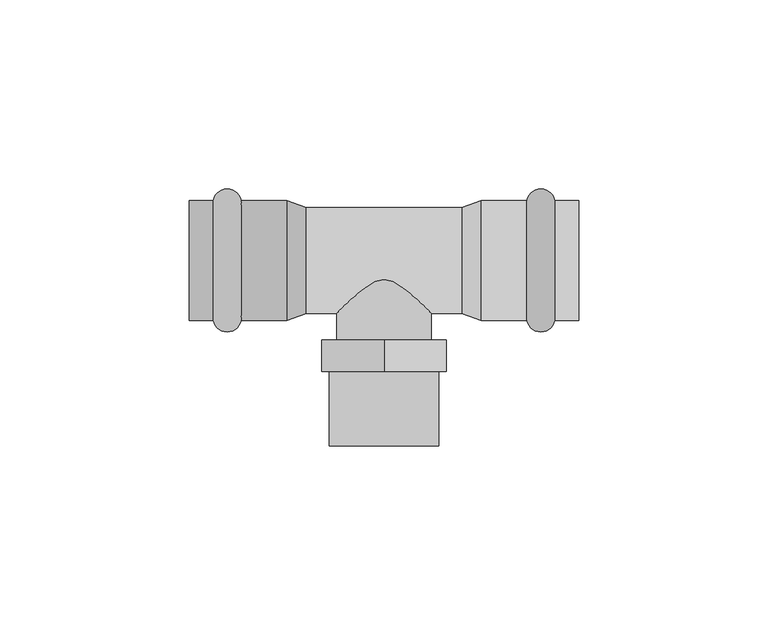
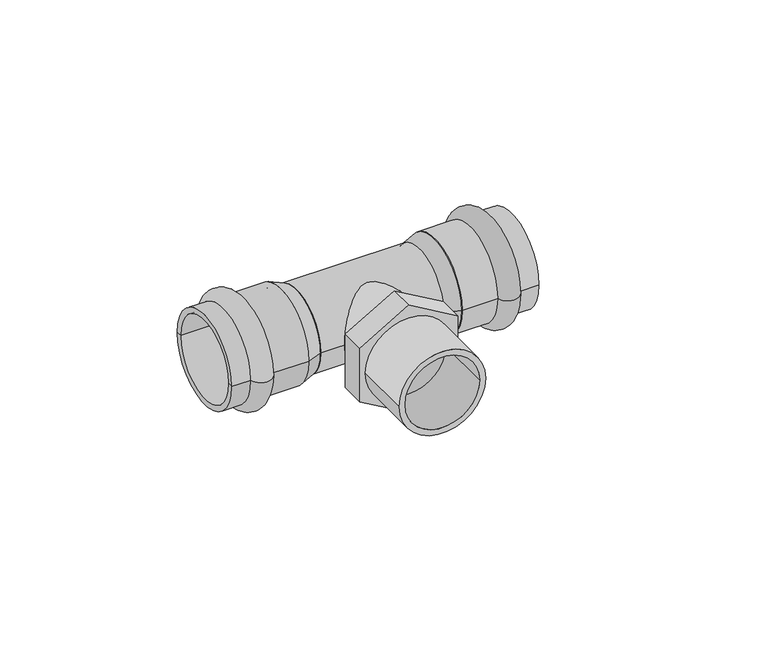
"""IFC4 building model written with IfcOpenShell, lengths in millimetres: pipe fitting geometry, VALTEC_VTi.933.I_Тройник с переходом на наружную  резьбу нержавеющая сталь : VTi.933.I."""

from ifc_helpers import new_model, si_unit, point, frame, origin, origin_2d, place, context, project, spatial, polyline, circle_curve, ellipse_curve, trimmed, segment, composite_curve, outline, extrude, source, transform, mapped, element, save
from ifc_brep_helpers import plane_surface, cylinder_surface, revolved_surface, advanced_brep


def pipe_fitting_f73928b2(model_context):
    return source(origin(), model_context, "Body", "SolidModel", [
        advanced_brep(
        [(45.1242346, 15.9, 0.0), (45.1242346, -15.9, 0.0), (37.7757654, -15.9, 0.0), (37.7757654, 15.9, 0.0), (51.5, 15.9, 0.0), (51.5, -15.9, 0.0), (51.5, 14.0, 0.0), (51.5, -14.0, 0.0), (25.75, 14.0, 0.0), (25.75, -14.0, 0.0), (25.75, 15.9, 0.0), (25.75, -15.9, 0.0)],
        [
            (0, 1, circle_curve(frame((45.1242346, 0.0, 0.0), z_axis=(-1.0, 0.0, 0.0), x_axis=(0.0, -1.0, 0.0)), 15.9)),
            (1, 2, circle_curve(frame((41.45, -15.15, 0.0), z_axis=(0.0, 0.0, -1.0), x_axis=(-1.0, 0.0, 0.0)), 3.75)),
            (2, 3, circle_curve(frame((37.7757654, 0.0, 0.0), z_axis=(1.0, 0.0, 0.0), x_axis=(0.0, -1.0, 0.0)), 15.9)),
            (3, 0, circle_curve(frame((41.45, 15.15, 0.0), z_axis=(0.0, 0.0, -1.0), x_axis=(-1.0, 0.0, 0.0)), 3.75)),
            (1, 0, circle_curve(frame((45.1242346, 0.0, 0.0), z_axis=(-1.0, 0.0, 0.0), x_axis=(0.0, -1.0, 0.0)), 15.9)),
            (3, 2, circle_curve(frame((37.7757654, 0.0, 0.0), z_axis=(1.0, 0.0, 0.0), x_axis=(0.0, -1.0, 0.0)), 15.9)),
            (4, 5, circle_curve(frame((51.5, 0.0, 0.0), z_axis=(-1.0, 0.0, 0.0), x_axis=(0.0, -1.0, 0.0)), 15.9)),
            (5, 1),
            (0, 4),
            (5, 4, circle_curve(frame((51.5, 0.0, 0.0), z_axis=(-1.0, 0.0, 0.0), x_axis=(0.0, -1.0, 0.0)), 15.9)),
            (6, 7, circle_curve(frame((51.5, 0.0, 0.0), z_axis=(-1.0, 0.0, 0.0), x_axis=(0.0, -1.0, 0.0)), 14.0)),
            (7, 5),
            (4, 6),
            (7, 6, circle_curve(frame((51.5, 0.0, 0.0), z_axis=(-1.0, 0.0, 0.0), x_axis=(0.0, -1.0, 0.0)), 14.0)),
            (8, 9, circle_curve(frame((25.75, 0.0, 0.0), z_axis=(-1.0, 0.0, 0.0), x_axis=(0.0, -1.0, 0.0)), 14.0)),
            (9, 7),
            (6, 8),
            (9, 8, circle_curve(frame((25.75, 0.0, 0.0), z_axis=(-1.0, 0.0, 0.0), x_axis=(0.0, -1.0, 0.0)), 14.0)),
            (10, 11, circle_curve(frame((25.75, 0.0, 0.0), z_axis=(-1.0, 0.0, 0.0), x_axis=(0.0, -1.0, 0.0)), 15.9)),
            (11, 9),
            (8, 10),
            (11, 10, circle_curve(frame((25.75, 0.0, 0.0), z_axis=(-1.0, 0.0, 0.0), x_axis=(0.0, -1.0, 0.0)), 15.9)),
            (2, 11),
            (10, 3),
        ],
        [
            revolved_surface(trimmed(ellipse_curve(frame((41.45, -15.15, 0.0), z_axis=(0.0, 0.0, 1.0), x_axis=(-1.0, 0.0, 0.0)), 3.75, 3.75), [point((37.7757654, -15.9, 0.0))], [point((45.1242346, -15.9, 0.0))], True, "CARTESIAN"), (55.0364426, 0.0, 0.0), (1.0, 0.0, 0.0)),
            cylinder_surface(frame((55.0364426, 0.0, 0.0), z_axis=(1.0, 0.0, 0.0), x_axis=(0.0, -1.0, 0.0)), 15.9),
            plane_surface(frame((51.5, 0.0, 0.0), z_axis=(1.0, 0.0, 0.0), x_axis=(0.0, -1.0, 0.0))),
            revolved_surface(polyline([(51.5, -14.0, 0.0), (25.75, -14.0, 0.0)]), (55.0364426, 0.0, 0.0), (1.0, 0.0, 0.0)),
            plane_surface(frame((25.75, 0.0, 0.0), z_axis=(-1.0, 0.0, 0.0), x_axis=(0.0, -1.0, 0.0))),
        ],
        [
            (0, [[1, 2, 3, 4]]),
            (0, [[5, -4, 6, -2]]),
            (1, [[7, 8, -1, 9]]),
            (1, [[10, -9, -5, -8]]),
            (2, [[11, 12, -7, 13]]),
            (2, [[14, -13, -10, -12]]),
            (3, [[15, 16, -11, 17]]),
            (3, [[18, -17, -14, -16]]),
            (4, [[19, 20, -15, 21]]),
            (4, [[22, -21, -18, -20]]),
            (1, [[-3, 23, -19, 24]]),
            (1, [[-6, -24, -22, -23]]),
        ],
    ),
        advanced_brep(
        [(-45.1242346, -15.9, 0.0), (-45.1242346, 15.9, 0.0), (-37.7757654, 15.9, 0.0), (-37.7757654, -15.9, 0.0), (-51.5, -15.9, 0.0), (-51.5, 15.9, 0.0), (-51.5, -14.0, 0.0), (-51.5, 14.0, 0.0), (-25.75, -14.0, 0.0), (-25.75, 14.0, 0.0), (-25.75, -15.9, 0.0), (-25.75, 15.9, 0.0)],
        [
            (0, 1, circle_curve(frame((-45.1242346, 0.0, 0.0), z_axis=(1.0, 0.0, 0.0), x_axis=(0.0, 1.0, 0.0)), 15.9)),
            (1, 2, circle_curve(frame((-41.45, 15.15, 0.0), z_axis=(0.0, 0.0, -1.0), x_axis=(1.0, 0.0, 0.0)), 3.75)),
            (2, 3, circle_curve(frame((-37.7757654, 0.0, 0.0), z_axis=(-1.0, 0.0, 0.0), x_axis=(0.0, 1.0, 0.0)), 15.9)),
            (3, 0, circle_curve(frame((-41.45, -15.15, 0.0), z_axis=(0.0, 0.0, -1.0), x_axis=(1.0, 0.0, 0.0)), 3.75)),
            (1, 0, circle_curve(frame((-45.1242346, 0.0, 0.0), z_axis=(1.0, 0.0, 0.0), x_axis=(0.0, 1.0, 0.0)), 15.9)),
            (3, 2, circle_curve(frame((-37.7757654, 0.0, 0.0), z_axis=(-1.0, 0.0, 0.0), x_axis=(0.0, 1.0, 0.0)), 15.9)),
            (4, 5, circle_curve(frame((-51.5, 0.0, 0.0), z_axis=(1.0, 0.0, 0.0), x_axis=(0.0, 1.0, 0.0)), 15.9)),
            (5, 1),
            (0, 4),
            (5, 4, circle_curve(frame((-51.5, 0.0, 0.0), z_axis=(1.0, 0.0, 0.0), x_axis=(0.0, 1.0, 0.0)), 15.9)),
            (6, 7, circle_curve(frame((-51.5, 0.0, 0.0), z_axis=(1.0, 0.0, 0.0), x_axis=(0.0, 1.0, 0.0)), 14.0)),
            (7, 5),
            (4, 6),
            (7, 6, circle_curve(frame((-51.5, 0.0, 0.0), z_axis=(1.0, 0.0, 0.0), x_axis=(0.0, 1.0, 0.0)), 14.0)),
            (8, 9, circle_curve(frame((-25.75, 0.0, 0.0), z_axis=(1.0, 0.0, 0.0), x_axis=(0.0, 1.0, 0.0)), 14.0)),
            (9, 7),
            (6, 8),
            (9, 8, circle_curve(frame((-25.75, 0.0, 0.0), z_axis=(1.0, 0.0, 0.0), x_axis=(0.0, 1.0, 0.0)), 14.0)),
            (10, 11, circle_curve(frame((-25.75, 0.0, 0.0), z_axis=(1.0, 0.0, 0.0), x_axis=(0.0, 1.0, 0.0)), 15.9)),
            (11, 9),
            (8, 10),
            (11, 10, circle_curve(frame((-25.75, 0.0, 0.0), z_axis=(1.0, 0.0, 0.0), x_axis=(0.0, 1.0, 0.0)), 15.9)),
            (2, 11),
            (10, 3),
        ],
        [
            revolved_surface(trimmed(ellipse_curve(frame((-41.45, 15.15, 0.0), z_axis=(0.0, 0.0, 1.0), x_axis=(1.0, 0.0, 0.0)), 3.75, 3.75), [point((-37.7757654, 15.9, 0.0))], [point((-45.1242346, 15.9, 0.0))], True, "CARTESIAN"), (-55.0364426, 0.0, 0.0), (-1.0, 0.0, 0.0)),
            cylinder_surface(frame((-55.0364426, 0.0, 0.0), z_axis=(-1.0, 0.0, 0.0), x_axis=(0.0, 1.0, 0.0)), 15.9),
            plane_surface(frame((-51.5, 0.0, 0.0), z_axis=(-1.0, 0.0, 0.0), x_axis=(0.0, 1.0, 0.0))),
            revolved_surface(polyline([(-51.5, 14.0, 0.0), (-25.75, 14.0, 0.0)]), (-55.0364426, 0.0, 0.0), (-1.0, 0.0, 0.0)),
            plane_surface(frame((-25.75, 0.0, 0.0), z_axis=(1.0, 0.0, 0.0), x_axis=(0.0, 1.0, 0.0))),
        ],
        [
            (0, [[1, 2, 3, 4]]),
            (0, [[5, -4, 6, -2]]),
            (1, [[7, 8, -1, 9]]),
            (1, [[10, -9, -5, -8]]),
            (2, [[11, 12, -7, 13]]),
            (2, [[14, -13, -10, -12]]),
            (3, [[15, 16, -11, 17]]),
            (3, [[18, -17, -14, -16]]),
            (4, [[19, 20, -15, 21]]),
            (4, [[22, -21, -18, -20]]),
            (1, [[-3, 23, -19, 24]]),
            (1, [[-6, -24, -22, -23]]),
        ],
    ),
        extrude(outline(composite_curve([segment(trimmed(circle_curve(origin_2d(), 14.5), [point((0.0, -14.5))], [point((0.0, 14.5))], False, "CARTESIAN"), True, "CONTINUOUS"), segment(trimmed(circle_curve(origin_2d(), 14.5), [point((0.0, 14.5))], [point((0.0, -14.5))], False, "CARTESIAN"), True, "CONTINUOUS")], self_intersect=False), holes=[composite_curve([segment(trimmed(circle_curve(origin_2d(), 12.5), [point((0.0, -12.5))], [point((0.0, 12.5))], True, "CARTESIAN"), True, "CONTINUOUS"), segment(trimmed(circle_curve(origin_2d(), 12.5), [point((0.0, 12.5))], [point((0.0, -12.5))], True, "CARTESIAN"), True, "CONTINUOUS")], self_intersect=False)]), frame((0.0, -49.0, 0.0), z_axis=(0.0, 1.0, 0.0), x_axis=(0.0, 0.0, 1.0)), (0.0, 0.0, 1.0), 19.6),
        extrude(outline(polyline([(19.0525589, 0.0), (9.5262794, -16.5), (-9.5262794, -16.5), (-19.0525589, 0.0), (-9.5262794, 16.5), (9.5262794, 16.5), (19.0525589, 0.0)]), holes=[composite_curve([segment(trimmed(circle_curve(origin_2d(), 12.5), [point((0.0, -12.5))], [point((0.0, 12.5))], True, "CARTESIAN"), True, "CONTINUOUS"), segment(trimmed(circle_curve(origin_2d(), 12.5), [point((0.0, 12.5))], [point((0.0, -12.5))], True, "CARTESIAN"), True, "CONTINUOUS")], self_intersect=False)]), frame((0.0, -29.4, 0.0), z_axis=(0.0, 1.0, 0.0), x_axis=(0.0, 0.0, 1.0)), (0.0, 0.0, 1.0), 8.4),
        extrude(outline(composite_curve([segment(trimmed(circle_curve(origin_2d(), 12.5), [point((0.0, -12.5))], [point((0.0, 12.5))], False, "CARTESIAN"), True, "CONTINUOUS"), segment(trimmed(circle_curve(origin_2d(), 12.5), [point((0.0, 12.5))], [point((0.0, -12.5))], False, "CARTESIAN"), True, "CONTINUOUS")], self_intersect=False)), frame((0.0, -21.0, 0.0), z_axis=(0.0, 1.0, 0.0), x_axis=(0.0, 0.0, 1.0)), (0.0, 0.0, 1.0), 21.0),
        extrude(outline(composite_curve([segment(trimmed(circle_curve(origin_2d(), 14.0), [point((-14.0, 0.0))], [point((14.0, 0.0))], False, "CARTESIAN"), True, "CONTINUOUS"), segment(trimmed(circle_curve(origin_2d(), 14.0), [point((14.0, 0.0))], [point((-14.0, 0.0))], False, "CARTESIAN"), True, "CONTINUOUS")], self_intersect=False)), frame((-20.6, 0.0, 0.0), z_axis=(1.0, 0.0, 0.0), x_axis=(0.0, 1.0, 0.0)), (0.0, 0.0, 1.0), 41.2),
        advanced_brep(
        [(25.75, -15.9, 0.0), (25.75, 15.9, 0.0), (20.6, -14.0, 0.0), (20.6, 14.0, 0.0)],
        [
            (0, 1, circle_curve(frame((25.75, 0.0, 0.0), z_axis=(1.0, 0.0, 0.0), x_axis=(0.0, -1.0, 0.0)), 15.9)),
            (1, 0, circle_curve(frame((25.75, 0.0, 0.0), z_axis=(1.0, 0.0, 0.0), x_axis=(0.0, 1.0, 0.0)), 15.9)),
            (2, 3, circle_curve(frame((20.6, 0.0, 0.0), z_axis=(-1.0, 0.0, 0.0), x_axis=(0.0, 1.0, 0.0)), 14.0)),
            (3, 2, circle_curve(frame((20.6, 0.0, 0.0), z_axis=(-1.0, 0.0, 0.0), x_axis=(0.0, -1.0, 0.0)), 14.0)),
            (3, 1),
            (0, 2),
        ],
        [
            plane_surface(frame((25.75, 0.0, 0.0), z_axis=(1.0, 0.0, 0.0), x_axis=(0.0, 0.0, 1.0))),
            plane_surface(frame((20.6, 0.0, 0.0), z_axis=(-1.0, 0.0, 0.0), x_axis=(0.0, 0.0, 1.0))),
            revolved_surface(polyline([(20.6, 13.999999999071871, 0.0), (25.75, 15.9, 0.0)]), (-17.3473684, 0.0, 0.0), (1.0, 0.0, 0.0)),
            revolved_surface(polyline([(20.6, -13.999999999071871, 0.0), (25.75, -15.9, 0.0)]), (-17.3473684, 0.0, 0.0), (1.0, 0.0, 0.0)),
        ],
        [
            (0, [[1, 2]]),
            (1, [[3, 4]]),
            (2, [[-4, 5, -1, 6]]),
            (3, [[-3, -6, -2, -5]]),
        ],
    ),
        advanced_brep(
        [(-25.75, -15.9, 0.0), (-25.75, 15.9, 0.0), (-20.6, -14.0, 0.0), (-20.6, 14.0, 0.0)],
        [
            (0, 1, circle_curve(frame((-25.75, 0.0, 0.0), z_axis=(-1.0, 0.0, 0.0), x_axis=(0.0, -1.0, 0.0)), 15.9)),
            (1, 0, circle_curve(frame((-25.75, 0.0, 0.0), z_axis=(-1.0, 0.0, 0.0), x_axis=(0.0, 1.0, 0.0)), 15.9)),
            (2, 3, circle_curve(frame((-20.6, 0.0, 0.0), z_axis=(1.0, 0.0, 0.0), x_axis=(0.0, 1.0, 0.0)), 14.0)),
            (3, 2, circle_curve(frame((-20.6, 0.0, 0.0), z_axis=(1.0, 0.0, 0.0), x_axis=(0.0, -1.0, 0.0)), 14.0)),
            (2, 0),
            (1, 3),
        ],
        [
            plane_surface(frame((-25.75, 0.0, 0.0), z_axis=(-1.0, 0.0, 0.0), x_axis=(0.0, 0.0, -1.0))),
            plane_surface(frame((-20.6, 0.0, 0.0), z_axis=(1.0, 0.0, 0.0), x_axis=(0.0, 0.0, -1.0))),
            revolved_surface(polyline([(-20.6, -13.999999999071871, 0.0), (-25.75, -15.9, 0.0)]), (17.3473684, 0.0, 0.0), (-1.0, 0.0, 0.0)),
            revolved_surface(polyline([(-20.6, 13.999999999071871, 0.0), (-25.75, 15.9, 0.0)]), (17.3473684, 0.0, 0.0), (-1.0, 0.0, 0.0)),
        ],
        [
            (0, [[1, 2]]),
            (1, [[3, 4]]),
            (2, [[-3, 5, -2, 6]]),
            (3, [[-4, -6, -1, -5]]),
        ],
    ),
    ])


if __name__ == "__main__":
    model = new_model("IFC4")
    model_context = context("Model", 3, world=origin())
    ifc_project = project(units=[si_unit("LENGTHUNIT", "METRE", prefix="MILLI")], contexts=[model_context])
    site = spatial("IfcSite", under=ifc_project)
    building = spatial("IfcBuilding", under=site)
    placement = place(None, origin())
    pipe_fitting_shape = pipe_fitting_f73928b2(model_context)
    element("IfcPipeFitting", 1, ObjectType="VALTEC_VTi.933.I_Тройник с переходом на наружную  резьбу нержавеющая сталь : VTi.933.I", at=placement, inside=building, context=model_context, shape_type="MappedRepresentation", body=[
        mapped(pipe_fitting_shape, transform((0.0, 0.0, 0.0), x_axis=(1.0, 0.0, 0.0), y_axis=(0.0, 1.0, 0.0), z_axis=(0.0, 0.0, 1.0))),
    ])
    save(model, "model.ifc")
